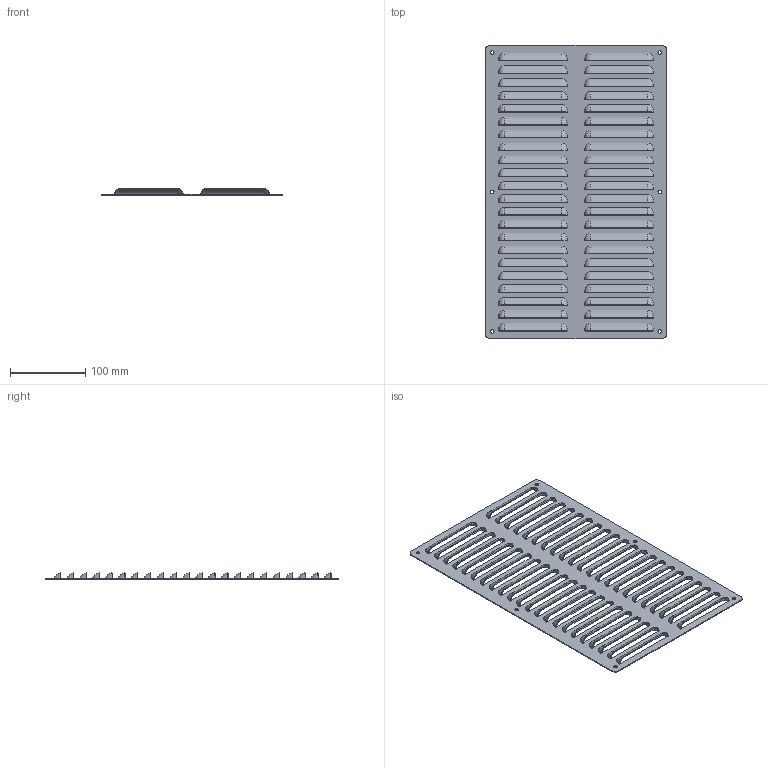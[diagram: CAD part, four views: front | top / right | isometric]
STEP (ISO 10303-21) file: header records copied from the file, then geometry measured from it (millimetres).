
FILE_DESCRIPTION((''),'2;1');
FILE_NAME('SCE-AVK812SS_ASM','2021-10-19T10:33:57',('mikek'),('SAGINAW CONTROL & ENGINEERING'),'CREO PARAMETRIC BY PTC INC, 2017260','CREO PARAMETRIC BY PTC INC, 2017260','');
FILE_SCHEMA(('AUTOMOTIVE_DESIGN { 1 0 10303 214 1 1 1 1 }'));
Length unit declared in the file: inch
Products named in the file (3): 110739; 102047; SCE-AVK812SS_ASM
Assembly tree (2 placements, depth 2):
  SCE-AVK812SS_ASM
    110739
    102047
Bounding box: 241.3 x 388.94 x 9.07 mm (x, y, z)
Volume: 129728.6 mm3; surface area: 224855.4 mm2
Topology: 1 solids, 1 shells, 638 faces, 1556 edges, 920 vertices
Faces by surface type: bspline 264, torus 176, cylinder 104, plane 94
Entity records: 33327 total; most frequent: CARTESIAN_POINT 19139, ORIENTED_EDGE 3112, DIRECTION 2170, EDGE_CURVE 1556, VERTEX_POINT 920, VECTOR 820, LINE 820, EDGE_LOOP 738
